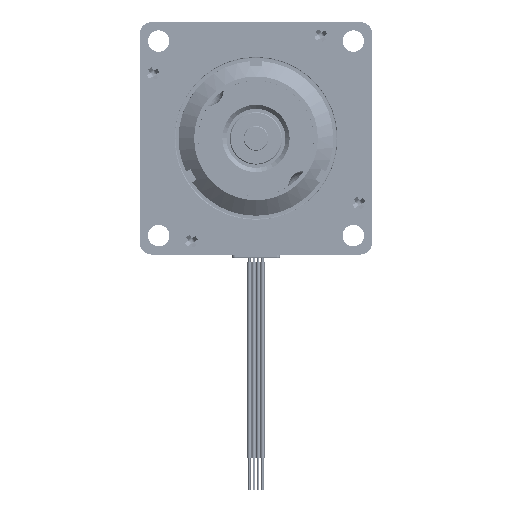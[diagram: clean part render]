
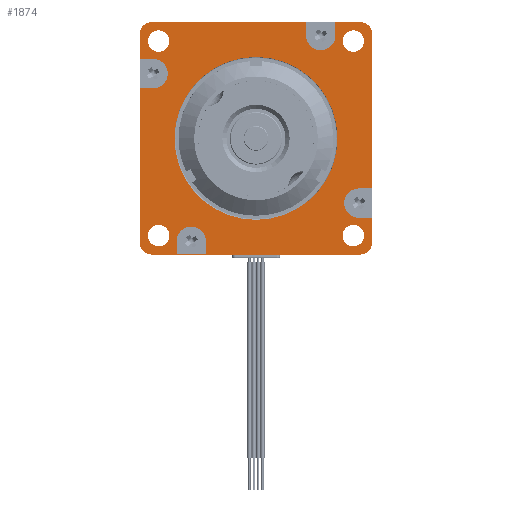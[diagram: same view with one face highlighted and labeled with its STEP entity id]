
A CAD part, front view. The second image highlights one B-rep face of the part: STEP entity #1874.
In plain terms, the highlighted planar face has unit normal (0, -1, 0).
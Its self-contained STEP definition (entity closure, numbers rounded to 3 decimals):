
#123=CARTESIAN_POINT('',(24.7,-44.5,-28.2));
#124=VERTEX_POINT('',#123);
#131=CARTESIAN_POINT('',(-24.7,-44.5,-28.2));
#132=VERTEX_POINT('',#131);
#133=CARTESIAN_POINT('',(24.7,-44.5,-28.2));
#134=DIRECTION('',(-1.,0.,0.));
#135=VECTOR('',#134,49.4);
#136=LINE('',#133,#135);
#137=EDGE_CURVE('',#124,#132,#136,.T.);
#195=CARTESIAN_POINT('',(-28.2,-44.5,-24.7));
#196=VERTEX_POINT('',#195);
#203=CARTESIAN_POINT('',(-28.2,-44.5,24.7));
#204=VERTEX_POINT('',#203);
#205=CARTESIAN_POINT('',(-28.2,-44.5,-24.7));
#206=DIRECTION('',(0.,0.,1.));
#207=VECTOR('',#206,49.4);
#208=LINE('',#205,#207);
#209=EDGE_CURVE('',#196,#204,#208,.T.);
#267=CARTESIAN_POINT('',(-24.7,-44.5,28.2));
#268=VERTEX_POINT('',#267);
#275=CARTESIAN_POINT('',(12.135,-44.5,28.2));
#276=VERTEX_POINT('',#275);
#277=CARTESIAN_POINT('',(-24.7,-44.5,28.2));
#278=DIRECTION('',(1.,0.,0.));
#279=VECTOR('',#278,36.835);
#280=LINE('',#277,#279);
#281=EDGE_CURVE('',#268,#276,#280,.T.);
#299=CARTESIAN_POINT('',(19.245,-44.5,28.2));
#300=VERTEX_POINT('',#299);
#307=CARTESIAN_POINT('',(24.7,-44.5,28.2));
#308=VERTEX_POINT('',#307);
#309=CARTESIAN_POINT('',(19.245,-44.5,28.2));
#310=DIRECTION('',(1.,0.,0.));
#311=VECTOR('',#310,5.455);
#312=LINE('',#309,#311);
#313=EDGE_CURVE('',#300,#308,#312,.T.);
#371=CARTESIAN_POINT('',(28.2,-44.5,24.7));
#372=VERTEX_POINT('',#371);
#379=CARTESIAN_POINT('',(28.2,-44.5,-12.135));
#380=VERTEX_POINT('',#379);
#381=CARTESIAN_POINT('',(28.2,-44.5,24.7));
#382=DIRECTION('',(0.,0.,-1.));
#383=VECTOR('',#382,36.835);
#384=LINE('',#381,#383);
#385=EDGE_CURVE('',#372,#380,#384,.T.);
#403=CARTESIAN_POINT('',(28.2,-44.5,-19.245));
#404=VERTEX_POINT('',#403);
#411=CARTESIAN_POINT('',(28.2,-44.5,-24.7));
#412=VERTEX_POINT('',#411);
#413=CARTESIAN_POINT('',(28.2,-44.5,-19.245));
#414=DIRECTION('',(0.,0.,-1.));
#415=VECTOR('',#414,5.455);
#416=LINE('',#413,#415);
#417=EDGE_CURVE('',#404,#412,#416,.T.);
#1228=CARTESIAN_POINT('',(-24.7,-44.5,-28.2));
#1229=CARTESIAN_POINT('',(-28.2,-44.5,-28.2));
#1230=CARTESIAN_POINT('',(-28.2,-44.5,-24.7));
#1231=B_SPLINE_CURVE_WITH_KNOTS('',2,(#1228,#1229,#1230),.UNSPECIFIED.,.F.,.U.,(3,3),(0.,1.),.UNSPECIFIED.);
#1232=EDGE_CURVE('',#132,#196,#1231,.T.);
#1247=CARTESIAN_POINT('',(-28.2,-44.5,24.7));
#1248=CARTESIAN_POINT('',(-28.2,-44.5,28.2));
#1249=CARTESIAN_POINT('',(-24.7,-44.5,28.2));
#1250=B_SPLINE_CURVE_WITH_KNOTS('',2,(#1247,#1248,#1249),.UNSPECIFIED.,.F.,.U.,(3,3),(0.,1.),.UNSPECIFIED.);
#1251=EDGE_CURVE('',#204,#268,#1250,.T.);
#1266=CARTESIAN_POINT('',(24.7,-44.5,28.2));
#1267=CARTESIAN_POINT('',(28.2,-44.5,28.2));
#1268=CARTESIAN_POINT('',(28.2,-44.5,24.7));
#1269=B_SPLINE_CURVE_WITH_KNOTS('',2,(#1266,#1267,#1268),.UNSPECIFIED.,.F.,.U.,(3,3),(0.,1.),.UNSPECIFIED.);
#1270=EDGE_CURVE('',#308,#372,#1269,.T.);
#1285=CARTESIAN_POINT('',(28.2,-44.5,-24.7));
#1286=CARTESIAN_POINT('',(28.2,-44.5,-28.2));
#1287=CARTESIAN_POINT('',(24.7,-44.5,-28.2));
#1288=B_SPLINE_CURVE_WITH_KNOTS('',2,(#1285,#1286,#1287),.UNSPECIFIED.,.F.,.U.,(3,3),(0.,1.),.UNSPECIFIED.);
#1289=EDGE_CURVE('',#412,#124,#1288,.T.);
#1412=CARTESIAN_POINT('',(-23.57,-44.5,20.965));
#1413=VERTEX_POINT('',#1412);
#1420=CARTESIAN_POINT('',(-23.57,-44.5,23.57));
#1421=DIRECTION('',(0.,0.,-1.));
#1422=DIRECTION('',(0.,-1.,0.));
#1423=AXIS2_PLACEMENT_3D('',#1420,#1422,#1421);
#1424=CIRCLE('',#1423,2.605);
#1425=EDGE_CURVE('',#1413,#1413,#1424,.T.);
#1437=CARTESIAN_POINT('',(23.57,-44.5,20.965));
#1438=VERTEX_POINT('',#1437);
#1445=CARTESIAN_POINT('',(23.57,-44.5,23.57));
#1446=DIRECTION('',(0.,0.,-1.));
#1447=DIRECTION('',(0.,-1.,0.));
#1448=AXIS2_PLACEMENT_3D('',#1445,#1447,#1446);
#1449=CIRCLE('',#1448,2.605);
#1450=EDGE_CURVE('',#1438,#1438,#1449,.T.);
#1462=CARTESIAN_POINT('',(-23.57,-44.5,-26.175));
#1463=VERTEX_POINT('',#1462);
#1470=CARTESIAN_POINT('',(-23.57,-44.5,-23.57));
#1471=DIRECTION('',(0.,0.,-1.));
#1472=DIRECTION('',(0.,-1.,0.));
#1473=AXIS2_PLACEMENT_3D('',#1470,#1472,#1471);
#1474=CIRCLE('',#1473,2.605);
#1475=EDGE_CURVE('',#1463,#1463,#1474,.T.);
#1487=CARTESIAN_POINT('',(23.57,-44.5,-26.175));
#1488=VERTEX_POINT('',#1487);
#1495=CARTESIAN_POINT('',(23.57,-44.5,-23.57));
#1496=DIRECTION('',(0.,-0.,-1.));
#1497=DIRECTION('',(0.,-1.,0.));
#1498=AXIS2_PLACEMENT_3D('',#1495,#1497,#1496);
#1499=CIRCLE('',#1498,2.605);
#1500=EDGE_CURVE('',#1488,#1488,#1499,.T.);
#1718=CARTESIAN_POINT('',(0.,-44.5,0.18));
#1719=DIRECTION('',(1.,0.,0.));
#1720=DIRECTION('',(0.,-1.,0.));
#1721=AXIS2_PLACEMENT_3D('',#1718,#1720,#1719);
#1722=PLANE('',#1721);
#1723=ORIENTED_EDGE('',*,*,#137,.F.);
#1724=ORIENTED_EDGE('',*,*,#1289,.F.);
#1725=ORIENTED_EDGE('',*,*,#417,.F.);
#1726=CARTESIAN_POINT('',(24.925,-44.5,-19.245));
#1727=VERTEX_POINT('',#1726);
#1728=CARTESIAN_POINT('',(28.2,-44.5,-19.245));
#1729=DIRECTION('',(-1.,0.,0.));
#1730=VECTOR('',#1729,3.275);
#1731=LINE('',#1728,#1730);
#1732=EDGE_CURVE('',#404,#1727,#1731,.T.);
#1733=ORIENTED_EDGE('E151',*,*,#1732,.T.);
#1734=CARTESIAN_POINT('',(24.925,-44.5,-12.135));
#1735=VERTEX_POINT('',#1734);
#1736=CARTESIAN_POINT('',(24.925,-44.5,-15.69));
#1737=DIRECTION('',(0.,0.,-1.));
#1738=DIRECTION('',(0.,1.,-0.));
#1739=AXIS2_PLACEMENT_3D('',#1736,#1738,#1737);
#1740=CIRCLE('',#1739,3.555);
#1741=EDGE_CURVE('',#1727,#1735,#1740,.T.);
#1742=ORIENTED_EDGE('E152',*,*,#1741,.T.);
#1743=CARTESIAN_POINT('',(24.925,-44.5,-12.135));
#1744=DIRECTION('',(1.,0.,0.));
#1745=VECTOR('',#1744,3.275);
#1746=LINE('',#1743,#1745);
#1747=EDGE_CURVE('',#1735,#380,#1746,.T.);
#1748=ORIENTED_EDGE('E153',*,*,#1747,.T.);
#1749=ORIENTED_EDGE('E153',*,*,#385,.F.);
#1750=ORIENTED_EDGE('E153',*,*,#1270,.F.);
#1751=ORIENTED_EDGE('E153',*,*,#313,.F.);
#1752=CARTESIAN_POINT('',(19.245,-44.5,24.925));
#1753=VERTEX_POINT('',#1752);
#1754=CARTESIAN_POINT('',(19.245,-44.5,28.2));
#1755=DIRECTION('',(0.,0.,-1.));
#1756=VECTOR('',#1755,3.275);
#1757=LINE('',#1754,#1756);
#1758=EDGE_CURVE('',#300,#1753,#1757,.T.);
#1759=ORIENTED_EDGE('E154',*,*,#1758,.T.);
#1760=CARTESIAN_POINT('',(12.135,-44.5,24.925));
#1761=VERTEX_POINT('',#1760);
#1762=CARTESIAN_POINT('',(15.69,-44.5,24.925));
#1763=DIRECTION('',(1.,0.,0.));
#1764=DIRECTION('',(0.,1.,0.));
#1765=AXIS2_PLACEMENT_3D('',#1762,#1764,#1763);
#1766=CIRCLE('',#1765,3.555);
#1767=EDGE_CURVE('',#1753,#1761,#1766,.T.);
#1768=ORIENTED_EDGE('E155',*,*,#1767,.T.);
#1769=CARTESIAN_POINT('',(12.135,-44.5,24.925));
#1770=DIRECTION('',(0.,0.,1.));
#1771=VECTOR('',#1770,3.275);
#1772=LINE('',#1769,#1771);
#1773=EDGE_CURVE('',#1761,#276,#1772,.T.);
#1774=ORIENTED_EDGE('E156',*,*,#1773,.T.);
#1775=ORIENTED_EDGE('E156',*,*,#281,.F.);
#1776=ORIENTED_EDGE('E156',*,*,#1251,.F.);
#1777=ORIENTED_EDGE('E156',*,*,#209,.F.);
#1778=ORIENTED_EDGE('E156',*,*,#1232,.F.);
#1779=EDGE_LOOP('',(#1723,#1724,#1725,#1733,#1742,#1748,#1749,#1750,#1751,#1759,#1768,#1774,#1775,#1776,#1777,#1778));
#1780=FACE_OUTER_BOUND('',#1779,.T.);
#1781=CARTESIAN_POINT('',(-28.13,-44.5,19.245));
#1782=VERTEX_POINT('',#1781);
#1783=CARTESIAN_POINT('',(-24.925,-44.5,19.245));
#1784=VERTEX_POINT('',#1783);
#1785=CARTESIAN_POINT('',(-28.13,-44.5,19.245));
#1786=DIRECTION('',(1.,0.,0.));
#1787=VECTOR('',#1786,3.205);
#1788=LINE('',#1785,#1787);
#1789=EDGE_CURVE('',#1782,#1784,#1788,.T.);
#1790=ORIENTED_EDGE('E157',*,*,#1789,.T.);
#1791=CARTESIAN_POINT('',(-24.925,-44.5,12.135));
#1792=VERTEX_POINT('',#1791);
#1793=CARTESIAN_POINT('',(-24.925,-44.5,15.69));
#1794=DIRECTION('',(0.,0.,1.));
#1795=DIRECTION('',(0.,1.,0.));
#1796=AXIS2_PLACEMENT_3D('',#1793,#1795,#1794);
#1797=CIRCLE('',#1796,3.555);
#1798=EDGE_CURVE('',#1784,#1792,#1797,.T.);
#1799=ORIENTED_EDGE('E158',*,*,#1798,.T.);
#1800=CARTESIAN_POINT('',(-28.13,-44.5,12.135));
#1801=VERTEX_POINT('',#1800);
#1802=CARTESIAN_POINT('',(-24.925,-44.5,12.135));
#1803=DIRECTION('',(-1.,0.,0.));
#1804=VECTOR('',#1803,3.205);
#1805=LINE('',#1802,#1804);
#1806=EDGE_CURVE('',#1792,#1801,#1805,.T.);
#1807=ORIENTED_EDGE('E159',*,*,#1806,.T.);
#1808=CARTESIAN_POINT('',(-28.13,-44.5,12.135));
#1809=DIRECTION('',(0.,0.,1.));
#1810=VECTOR('',#1809,7.11);
#1811=LINE('',#1808,#1810);
#1812=EDGE_CURVE('',#1801,#1782,#1811,.T.);
#1813=ORIENTED_EDGE('E160',*,*,#1812,.T.);
#1814=EDGE_LOOP('',(#1790,#1799,#1807,#1813));
#1815=FACE_BOUND('',#1814,.T.);
#1816=CARTESIAN_POINT('',(-19.245,-44.5,-24.925));
#1817=VERTEX_POINT('',#1816);
#1818=CARTESIAN_POINT('',(-12.135,-44.5,-24.925));
#1819=VERTEX_POINT('',#1818);
#1820=CARTESIAN_POINT('',(-15.69,-44.5,-24.925));
#1821=DIRECTION('',(-1.,0.,0.));
#1822=DIRECTION('',(0.,1.,0.));
#1823=AXIS2_PLACEMENT_3D('',#1820,#1822,#1821);
#1824=CIRCLE('',#1823,3.555);
#1825=EDGE_CURVE('',#1817,#1819,#1824,.T.);
#1826=ORIENTED_EDGE('E161',*,*,#1825,.T.);
#1827=CARTESIAN_POINT('',(-12.135,-44.5,-28.13));
#1828=VERTEX_POINT('',#1827);
#1829=CARTESIAN_POINT('',(-12.135,-44.5,-24.925));
#1830=DIRECTION('',(0.,0.,-1.));
#1831=VECTOR('',#1830,3.205);
#1832=LINE('',#1829,#1831);
#1833=EDGE_CURVE('',#1819,#1828,#1832,.T.);
#1834=ORIENTED_EDGE('E162',*,*,#1833,.T.);
#1835=CARTESIAN_POINT('',(-19.245,-44.5,-28.13));
#1836=VERTEX_POINT('',#1835);
#1837=CARTESIAN_POINT('',(-12.135,-44.5,-28.13));
#1838=DIRECTION('',(-1.,0.,0.));
#1839=VECTOR('',#1838,7.11);
#1840=LINE('',#1837,#1839);
#1841=EDGE_CURVE('',#1828,#1836,#1840,.T.);
#1842=ORIENTED_EDGE('E163',*,*,#1841,.T.);
#1843=CARTESIAN_POINT('',(-19.245,-44.5,-28.13));
#1844=DIRECTION('',(0.,0.,1.));
#1845=VECTOR('',#1844,3.205);
#1846=LINE('',#1843,#1845);
#1847=EDGE_CURVE('',#1836,#1817,#1846,.T.);
#1848=ORIENTED_EDGE('E164',*,*,#1847,.T.);
#1849=EDGE_LOOP('',(#1826,#1834,#1842,#1848));
#1850=FACE_BOUND('',#1849,.T.);
#1851=ORIENTED_EDGE('',*,*,#1475,.F.);
#1852=EDGE_LOOP('',(#1851));
#1853=FACE_BOUND('',#1852,.T.);
#1854=ORIENTED_EDGE('',*,*,#1425,.F.);
#1855=EDGE_LOOP('',(#1854));
#1856=FACE_BOUND('',#1855,.T.);
#1857=ORIENTED_EDGE('',*,*,#1450,.F.);
#1858=EDGE_LOOP('',(#1857));
#1859=FACE_BOUND('',#1858,.T.);
#1860=ORIENTED_EDGE('',*,*,#1500,.F.);
#1861=EDGE_LOOP('',(#1860));
#1862=FACE_BOUND('',#1861,.T.);
#1863=CARTESIAN_POINT('',(19.75,-44.499,0.));
#1864=VERTEX_POINT('',#1863);
#1865=CARTESIAN_POINT('',(0.,-44.497,0.));
#1866=DIRECTION('',(1.,0.,0.));
#1867=DIRECTION('',(0.,1.,0.));
#1868=AXIS2_PLACEMENT_3D('',#1865,#1867,#1866);
#1869=CIRCLE('',#1868,19.75);
#1870=EDGE_CURVE('',#1864,#1864,#1869,.T.);
#1871=ORIENTED_EDGE('E165',*,*,#1870,.T.);
#1872=EDGE_LOOP('',(#1871));
#1873=FACE_BOUND('',#1872,.T.);
#1874=ADVANCED_FACE('F50',(#1780,#1815,#1850,#1853,#1856,#1859,#1862,#1873),#1722,.T.);
